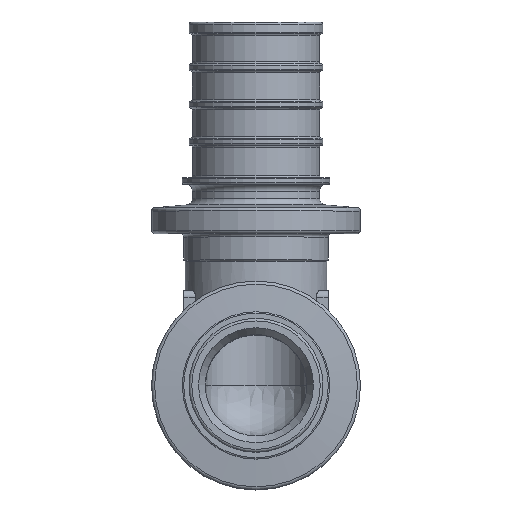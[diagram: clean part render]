
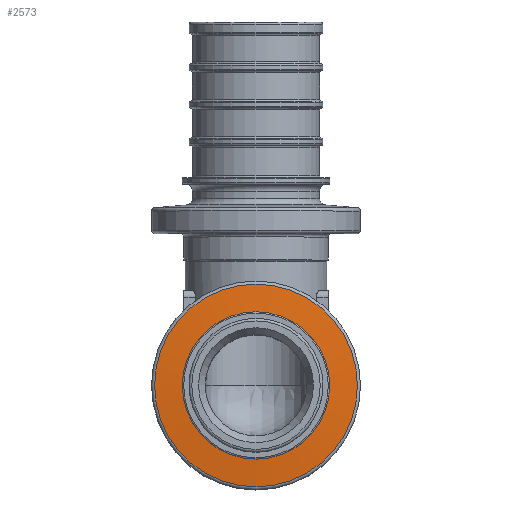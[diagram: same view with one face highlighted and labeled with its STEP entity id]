
A CAD part, top view. The second image highlights one B-rep face of the part: STEP entity #2573.
In plain terms, the highlighted conical face has half-angle 85 degrees and reference radius 12.653 mm.
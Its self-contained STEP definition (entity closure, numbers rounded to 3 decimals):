
#2573=ADVANCED_FACE('',(#5128,#5130),#5132,.T.);
#5128=FACE_BOUND('',#5129,.T.);
#5129=EDGE_LOOP('',(#7886,#7887));
#5130=FACE_OUTER_BOUND('',#5131,.T.);
#5131=EDGE_LOOP('',(#7888));
#5132=CONICAL_SURFACE('',#5133,12.653,1.484);
#5133=AXIS2_PLACEMENT_3D('',#5134,#5135,#5136);
#5134=CARTESIAN_POINT('',(0.,0.,26.545));
#5135=DIRECTION('',(0.,0.,-1.));
#5136=DIRECTION('',(1.,0.,0.));
#7886=ORIENTED_EDGE('',*,*,#8819,.T.);
#7887=ORIENTED_EDGE('',*,*,#8820,.T.);
#7888=ORIENTED_EDGE('',*,*,#8816,.T.);
#8816=EDGE_CURVE('',#10178,#10178,#10179,.T.);
#8819=EDGE_CURVE('',#10184,#10185,#10186,.F.);
#8820=EDGE_CURVE('',#10185,#10184,#10187,.F.);
#10178=VERTEX_POINT('',#13458);
#10179=CIRCLE('',#13459,14.994);
#10184=VERTEX_POINT('',#13473);
#10185=VERTEX_POINT('',#13474);
#10186=CIRCLE('',#13475,10.313);
#10187=CIRCLE('',#13479,10.313);
#13458=CARTESIAN_POINT('',(-14.994,0.,26.34));
#13459=AXIS2_PLACEMENT_3D('',#13460,#13461,#13462);
#13460=CARTESIAN_POINT('',(0.,0.,26.34));
#13461=DIRECTION('',(0.,0.,1.));
#13462=DIRECTION('',(-1.,0.,0.));
#13473=CARTESIAN_POINT('',(10.313,0.,26.749));
#13474=CARTESIAN_POINT('',(-10.313,0.,26.749));
#13475=AXIS2_PLACEMENT_3D('',#13476,#13477,#13478);
#13476=CARTESIAN_POINT('',(0.,0.,26.749));
#13477=DIRECTION('',(0.,0.,1.));
#13478=DIRECTION('',(-1.,0.,0.));
#13479=AXIS2_PLACEMENT_3D('',#13480,#13481,#13482);
#13480=CARTESIAN_POINT('',(0.,0.,26.749));
#13481=DIRECTION('',(0.,0.,1.));
#13482=DIRECTION('',(1.,0.,0.));
